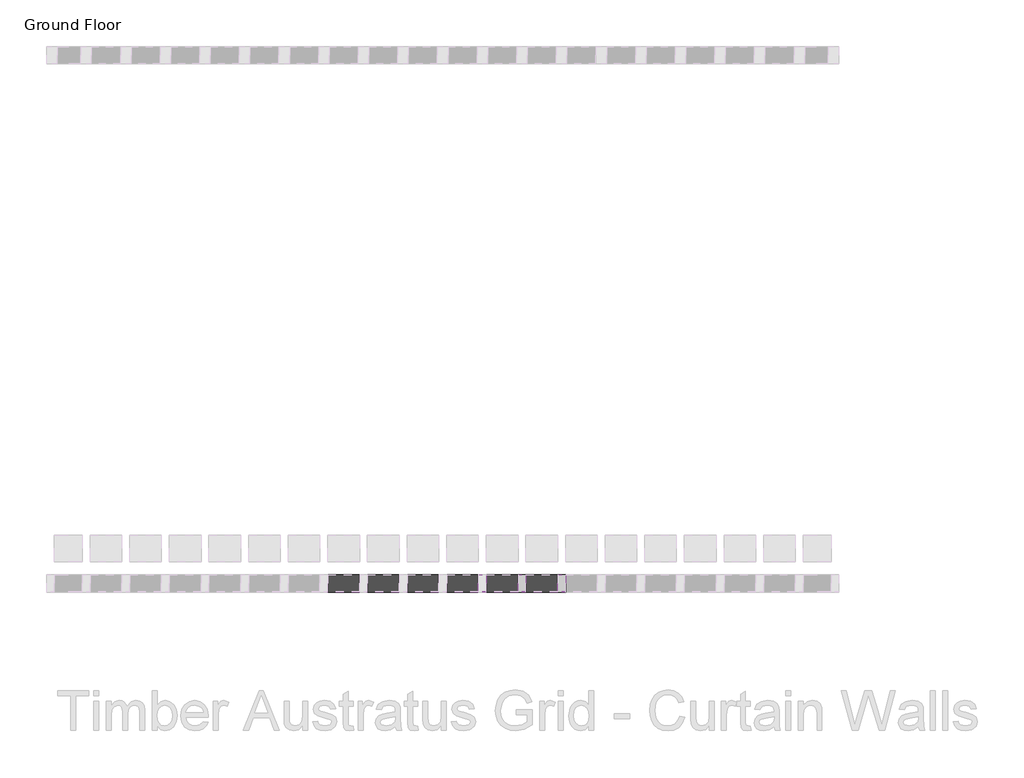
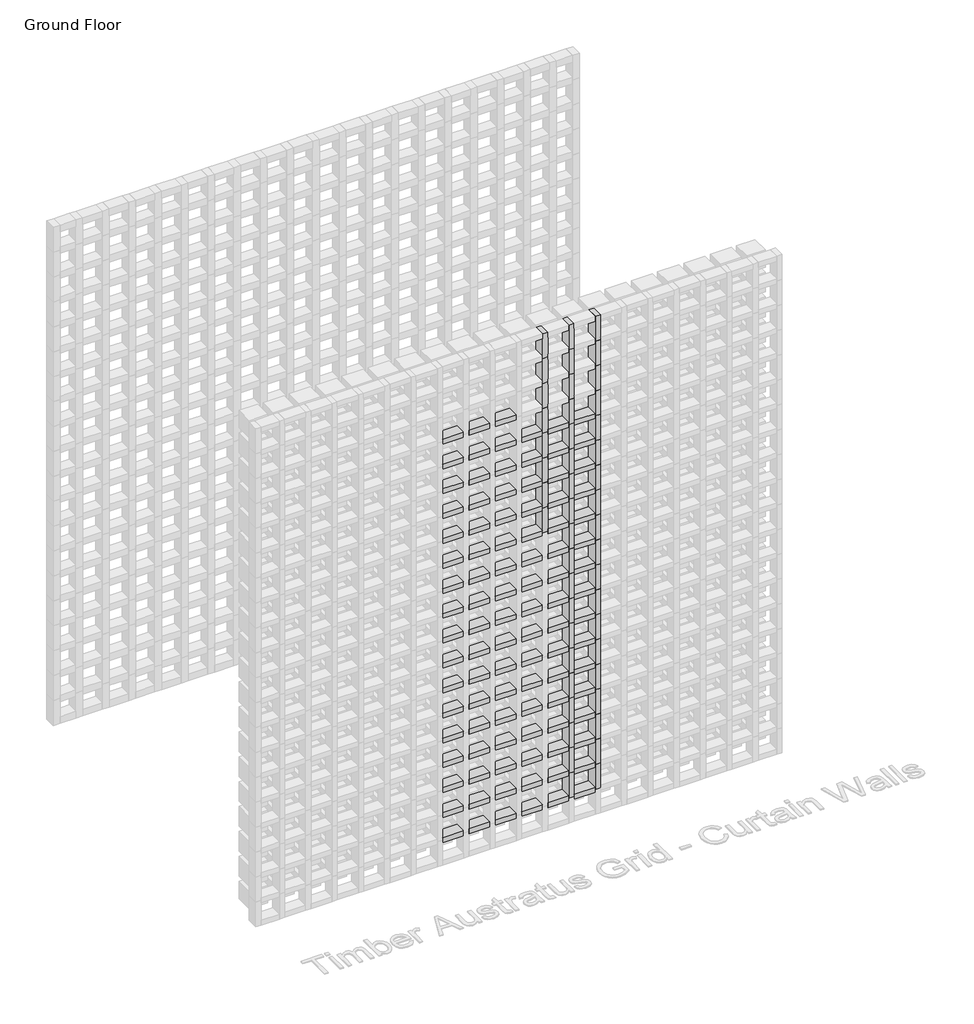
# One storey, part 51 of 350: 145 members.
"""IFC4 building model written with IfcOpenShell, lengths in millimetres."""

from ifc_helpers import new_model, si_unit, origin, place, context, project, spatial, transform, mapped, element, save
from components import rectangular_mullion_1c916715, rectangular_mullion_5b501421

model = new_model("IFC4")

# Units and contexts
model_context = context("Model", 3, world=origin())
ifc_project = project(units=[si_unit("LENGTHUNIT", "METRE", prefix="MILLI")], contexts=[model_context])

# Site, building, storey
site = spatial("IfcSite", under=ifc_project)
building = spatial("IfcBuilding", under=site)
storey = spatial("IfcBuildingStorey", under=building, Name="Ground Floor", Elevation=0.0)

# Members
placement = place(None, origin())
rectangular_mullion_shape = rectangular_mullion_1c916715(model_context)
element("IfcMember", 1, ObjectType="Rectangular Mullion : Batten_Timber_Modinex_Austratus_Grid_Fascia_30x65_AlaskanYellowCedar", at=placement, inside=storey, context=model_context, shape_type="MappedRepresentation", body=[
    mapped(rectangular_mullion_shape, transform((3101.4361642, 38968.2978302, 150.0), x_axis=(0.0, 0.0, 1.0), y_axis=(0.0, -1.0, 0.0), z_axis=(1.0, 0.0, 0.0))),
])
element("IfcMember", 2, ObjectType="Rectangular Mullion : Batten_Timber_Modinex_Austratus_Grid_Fascia_30x65_AlaskanYellowCedar", at=placement, inside=storey, context=model_context, shape_type="MappedRepresentation", body=[
    mapped(rectangular_mullion_shape, transform((3251.4361642, 38968.2978302, 150.0), x_axis=(0.0, 0.0, 1.0), y_axis=(0.0, -1.0, 0.0), z_axis=(1.0, 0.0, 0.0))),
])
element("IfcMember", 3, ObjectType="Rectangular Mullion : Batten_Timber_Modinex_Austratus_Grid_Fascia_30x65_AlaskanYellowCedar", at=placement, inside=storey, context=model_context, shape_type="MappedRepresentation", body=[
    mapped(rectangular_mullion_shape, transform((3401.4361642, 38968.2978302, 150.0), x_axis=(0.0, 0.0, 1.0), y_axis=(0.0, -1.0, 0.0), z_axis=(1.0, 0.0, 0.0))),
])
element("IfcMember", 4, ObjectType="Rectangular Mullion : Batten_Timber_Modinex_Austratus_Grid_Fascia_30x65_AlaskanYellowCedar", at=placement, inside=storey, context=model_context, shape_type="MappedRepresentation", body=[
    mapped(rectangular_mullion_shape, transform((3551.4361642, 38968.2978302, 150.0), x_axis=(0.0, 0.0, 1.0), y_axis=(0.0, -1.0, 0.0), z_axis=(1.0, 0.0, 0.0))),
])
element("IfcMember", 5, ObjectType="Rectangular Mullion : Batten_Timber_Modinex_Austratus_Grid_Fascia_30x65_AlaskanYellowCedar", at=placement, inside=storey, context=model_context, shape_type="MappedRepresentation", body=[
    mapped(rectangular_mullion_shape, transform((3701.4361642, 38968.2978302, 150.0), x_axis=(0.0, 0.0, 1.0), y_axis=(0.0, -1.0, 0.0), z_axis=(1.0, 0.0, 0.0))),
])
element("IfcMember", 6, ObjectType="Rectangular Mullion : Batten_Timber_Modinex_Austratus_Grid_Fascia_30x65_AlaskanYellowCedar", at=placement, inside=storey, context=model_context, shape_type="MappedRepresentation", body=[
    mapped(rectangular_mullion_shape, transform((3851.4361642, 38968.2978302, 150.0), x_axis=(0.0, 0.0, 1.0), y_axis=(0.0, -1.0, 0.0), z_axis=(1.0, 0.0, 0.0))),
])
element("IfcMember", 7, ObjectType="Rectangular Mullion : Batten_Timber_Modinex_Austratus_Grid_Fascia_30x65_AlaskanYellowCedar", at=placement, inside=storey, context=model_context, shape_type="MappedRepresentation", body=[
    mapped(rectangular_mullion_shape, transform((3101.4361642, 38968.2978302, 300.0), x_axis=(0.0, 0.0, 1.0), y_axis=(0.0, -1.0, 0.0), z_axis=(1.0, 0.0, 0.0))),
])
element("IfcMember", 8, ObjectType="Rectangular Mullion : Batten_Timber_Modinex_Austratus_Grid_Fascia_30x65_AlaskanYellowCedar", at=placement, inside=storey, context=model_context, shape_type="MappedRepresentation", body=[
    mapped(rectangular_mullion_shape, transform((3251.4361642, 38968.2978302, 300.0), x_axis=(0.0, 0.0, 1.0), y_axis=(0.0, -1.0, 0.0), z_axis=(1.0, 0.0, 0.0))),
])
element("IfcMember", 9, ObjectType="Rectangular Mullion : Batten_Timber_Modinex_Austratus_Grid_Fascia_30x65_AlaskanYellowCedar", at=placement, inside=storey, context=model_context, shape_type="MappedRepresentation", body=[
    mapped(rectangular_mullion_shape, transform((3401.4361642, 38968.2978302, 300.0), x_axis=(0.0, 0.0, 1.0), y_axis=(0.0, -1.0, 0.0), z_axis=(1.0, 0.0, 0.0))),
])
element("IfcMember", 10, ObjectType="Rectangular Mullion : Batten_Timber_Modinex_Austratus_Grid_Fascia_30x65_AlaskanYellowCedar", at=placement, inside=storey, context=model_context, shape_type="MappedRepresentation", body=[
    mapped(rectangular_mullion_shape, transform((3551.4361642, 38968.2978302, 300.0), x_axis=(0.0, 0.0, 1.0), y_axis=(0.0, -1.0, 0.0), z_axis=(1.0, 0.0, 0.0))),
])
element("IfcMember", 11, ObjectType="Rectangular Mullion : Batten_Timber_Modinex_Austratus_Grid_Fascia_30x65_AlaskanYellowCedar", at=placement, inside=storey, context=model_context, shape_type="MappedRepresentation", body=[
    mapped(rectangular_mullion_shape, transform((3701.4361642, 38968.2978302, 300.0), x_axis=(0.0, 0.0, 1.0), y_axis=(0.0, -1.0, 0.0), z_axis=(1.0, 0.0, 0.0))),
])
element("IfcMember", 12, ObjectType="Rectangular Mullion : Batten_Timber_Modinex_Austratus_Grid_Fascia_30x65_AlaskanYellowCedar", at=placement, inside=storey, context=model_context, shape_type="MappedRepresentation", body=[
    mapped(rectangular_mullion_shape, transform((3851.4361642, 38968.2978302, 300.0), x_axis=(0.0, 0.0, 1.0), y_axis=(0.0, -1.0, 0.0), z_axis=(1.0, 0.0, 0.0))),
])
element("IfcMember", 13, ObjectType="Rectangular Mullion : Batten_Timber_Modinex_Austratus_Grid_Fascia_30x65_AlaskanYellowCedar", at=placement, inside=storey, context=model_context, shape_type="MappedRepresentation", body=[
    mapped(rectangular_mullion_shape, transform((3101.4361642, 38968.2978302, 450.0), x_axis=(0.0, 0.0, 1.0), y_axis=(0.0, -1.0, 0.0), z_axis=(1.0, 0.0, 0.0))),
])
element("IfcMember", 14, ObjectType="Rectangular Mullion : Batten_Timber_Modinex_Austratus_Grid_Fascia_30x65_AlaskanYellowCedar", at=placement, inside=storey, context=model_context, shape_type="MappedRepresentation", body=[
    mapped(rectangular_mullion_shape, transform((3251.4361642, 38968.2978302, 450.0), x_axis=(0.0, 0.0, 1.0), y_axis=(0.0, -1.0, 0.0), z_axis=(1.0, 0.0, 0.0))),
])
element("IfcMember", 15, ObjectType="Rectangular Mullion : Batten_Timber_Modinex_Austratus_Grid_Fascia_30x65_AlaskanYellowCedar", at=placement, inside=storey, context=model_context, shape_type="MappedRepresentation", body=[
    mapped(rectangular_mullion_shape, transform((3401.4361642, 38968.2978302, 450.0), x_axis=(0.0, 0.0, 1.0), y_axis=(0.0, -1.0, 0.0), z_axis=(1.0, 0.0, 0.0))),
])
element("IfcMember", 16, ObjectType="Rectangular Mullion : Batten_Timber_Modinex_Austratus_Grid_Fascia_30x65_AlaskanYellowCedar", at=placement, inside=storey, context=model_context, shape_type="MappedRepresentation", body=[
    mapped(rectangular_mullion_shape, transform((3551.4361642, 38968.2978302, 450.0), x_axis=(0.0, 0.0, 1.0), y_axis=(0.0, -1.0, 0.0), z_axis=(1.0, 0.0, 0.0))),
])
element("IfcMember", 17, ObjectType="Rectangular Mullion : Batten_Timber_Modinex_Austratus_Grid_Fascia_30x65_AlaskanYellowCedar", at=placement, inside=storey, context=model_context, shape_type="MappedRepresentation", body=[
    mapped(rectangular_mullion_shape, transform((3701.4361642, 38968.2978302, 450.0), x_axis=(0.0, 0.0, 1.0), y_axis=(0.0, -1.0, 0.0), z_axis=(1.0, 0.0, 0.0))),
])
element("IfcMember", 18, ObjectType="Rectangular Mullion : Batten_Timber_Modinex_Austratus_Grid_Fascia_30x65_AlaskanYellowCedar", at=placement, inside=storey, context=model_context, shape_type="MappedRepresentation", body=[
    mapped(rectangular_mullion_shape, transform((3851.4361642, 38968.2978302, 450.0), x_axis=(0.0, 0.0, 1.0), y_axis=(0.0, -1.0, 0.0), z_axis=(1.0, 0.0, 0.0))),
])
element("IfcMember", 19, ObjectType="Rectangular Mullion : Batten_Timber_Modinex_Austratus_Grid_Fascia_30x65_AlaskanYellowCedar", at=placement, inside=storey, context=model_context, shape_type="MappedRepresentation", body=[
    mapped(rectangular_mullion_shape, transform((3101.4361642, 38968.2978302, 600.0), x_axis=(0.0, 0.0, 1.0), y_axis=(0.0, -1.0, 0.0), z_axis=(1.0, 0.0, 0.0))),
])
element("IfcMember", 20, ObjectType="Rectangular Mullion : Batten_Timber_Modinex_Austratus_Grid_Fascia_30x65_AlaskanYellowCedar", at=placement, inside=storey, context=model_context, shape_type="MappedRepresentation", body=[
    mapped(rectangular_mullion_shape, transform((3251.4361642, 38968.2978302, 600.0), x_axis=(0.0, 0.0, 1.0), y_axis=(0.0, -1.0, 0.0), z_axis=(1.0, 0.0, 0.0))),
])
element("IfcMember", 21, ObjectType="Rectangular Mullion : Batten_Timber_Modinex_Austratus_Grid_Fascia_30x65_AlaskanYellowCedar", at=placement, inside=storey, context=model_context, shape_type="MappedRepresentation", body=[
    mapped(rectangular_mullion_shape, transform((3401.4361642, 38968.2978302, 600.0), x_axis=(0.0, 0.0, 1.0), y_axis=(0.0, -1.0, 0.0), z_axis=(1.0, 0.0, 0.0))),
])
element("IfcMember", 22, ObjectType="Rectangular Mullion : Batten_Timber_Modinex_Austratus_Grid_Fascia_30x65_AlaskanYellowCedar", at=placement, inside=storey, context=model_context, shape_type="MappedRepresentation", body=[
    mapped(rectangular_mullion_shape, transform((3551.4361642, 38968.2978302, 600.0), x_axis=(0.0, 0.0, 1.0), y_axis=(0.0, -1.0, 0.0), z_axis=(1.0, 0.0, 0.0))),
])
element("IfcMember", 23, ObjectType="Rectangular Mullion : Batten_Timber_Modinex_Austratus_Grid_Fascia_30x65_AlaskanYellowCedar", at=placement, inside=storey, context=model_context, shape_type="MappedRepresentation", body=[
    mapped(rectangular_mullion_shape, transform((3701.4361642, 38968.2978302, 600.0), x_axis=(0.0, 0.0, 1.0), y_axis=(0.0, -1.0, 0.0), z_axis=(1.0, 0.0, 0.0))),
])
element("IfcMember", 24, ObjectType="Rectangular Mullion : Batten_Timber_Modinex_Austratus_Grid_Fascia_30x65_AlaskanYellowCedar", at=placement, inside=storey, context=model_context, shape_type="MappedRepresentation", body=[
    mapped(rectangular_mullion_shape, transform((3851.4361642, 38968.2978302, 600.0), x_axis=(0.0, 0.0, 1.0), y_axis=(0.0, -1.0, 0.0), z_axis=(1.0, 0.0, 0.0))),
])
element("IfcMember", 25, ObjectType="Rectangular Mullion : Batten_Timber_Modinex_Austratus_Grid_Fascia_30x65_AlaskanYellowCedar", at=placement, inside=storey, context=model_context, shape_type="MappedRepresentation", body=[
    mapped(rectangular_mullion_shape, transform((3101.4361642, 38968.2978302, 750.0), x_axis=(0.0, 0.0, 1.0), y_axis=(0.0, -1.0, 0.0), z_axis=(1.0, 0.0, 0.0))),
])
element("IfcMember", 26, ObjectType="Rectangular Mullion : Batten_Timber_Modinex_Austratus_Grid_Fascia_30x65_AlaskanYellowCedar", at=placement, inside=storey, context=model_context, shape_type="MappedRepresentation", body=[
    mapped(rectangular_mullion_shape, transform((3251.4361642, 38968.2978302, 750.0), x_axis=(0.0, 0.0, 1.0), y_axis=(0.0, -1.0, 0.0), z_axis=(1.0, 0.0, 0.0))),
])
element("IfcMember", 27, ObjectType="Rectangular Mullion : Batten_Timber_Modinex_Austratus_Grid_Fascia_30x65_AlaskanYellowCedar", at=placement, inside=storey, context=model_context, shape_type="MappedRepresentation", body=[
    mapped(rectangular_mullion_shape, transform((3401.4361642, 38968.2978302, 750.0), x_axis=(0.0, 0.0, 1.0), y_axis=(0.0, -1.0, 0.0), z_axis=(1.0, 0.0, 0.0))),
])
element("IfcMember", 28, ObjectType="Rectangular Mullion : Batten_Timber_Modinex_Austratus_Grid_Fascia_30x65_AlaskanYellowCedar", at=placement, inside=storey, context=model_context, shape_type="MappedRepresentation", body=[
    mapped(rectangular_mullion_shape, transform((3551.4361642, 38968.2978302, 750.0), x_axis=(0.0, 0.0, 1.0), y_axis=(0.0, -1.0, 0.0), z_axis=(1.0, 0.0, 0.0))),
])
element("IfcMember", 29, ObjectType="Rectangular Mullion : Batten_Timber_Modinex_Austratus_Grid_Fascia_30x65_AlaskanYellowCedar", at=placement, inside=storey, context=model_context, shape_type="MappedRepresentation", body=[
    mapped(rectangular_mullion_shape, transform((3701.4361642, 38968.2978302, 750.0), x_axis=(0.0, 0.0, 1.0), y_axis=(0.0, -1.0, 0.0), z_axis=(1.0, 0.0, 0.0))),
])
element("IfcMember", 30, ObjectType="Rectangular Mullion : Batten_Timber_Modinex_Austratus_Grid_Fascia_30x65_AlaskanYellowCedar", at=placement, inside=storey, context=model_context, shape_type="MappedRepresentation", body=[
    mapped(rectangular_mullion_shape, transform((3851.4361642, 38968.2978302, 750.0), x_axis=(0.0, 0.0, 1.0), y_axis=(0.0, -1.0, 0.0), z_axis=(1.0, 0.0, 0.0))),
])
element("IfcMember", 31, ObjectType="Rectangular Mullion : Batten_Timber_Modinex_Austratus_Grid_Fascia_30x65_AlaskanYellowCedar", at=placement, inside=storey, context=model_context, shape_type="MappedRepresentation", body=[
    mapped(rectangular_mullion_shape, transform((3101.4361642, 38968.2978302, 900.0), x_axis=(0.0, 0.0, 1.0), y_axis=(0.0, -1.0, 0.0), z_axis=(1.0, 0.0, 0.0))),
])
element("IfcMember", 32, ObjectType="Rectangular Mullion : Batten_Timber_Modinex_Austratus_Grid_Fascia_30x65_AlaskanYellowCedar", at=placement, inside=storey, context=model_context, shape_type="MappedRepresentation", body=[
    mapped(rectangular_mullion_shape, transform((3251.4361642, 38968.2978302, 900.0), x_axis=(0.0, 0.0, 1.0), y_axis=(0.0, -1.0, 0.0), z_axis=(1.0, 0.0, 0.0))),
])
element("IfcMember", 33, ObjectType="Rectangular Mullion : Batten_Timber_Modinex_Austratus_Grid_Fascia_30x65_AlaskanYellowCedar", at=placement, inside=storey, context=model_context, shape_type="MappedRepresentation", body=[
    mapped(rectangular_mullion_shape, transform((3401.4361642, 38968.2978302, 900.0), x_axis=(0.0, 0.0, 1.0), y_axis=(0.0, -1.0, 0.0), z_axis=(1.0, 0.0, 0.0))),
])
element("IfcMember", 34, ObjectType="Rectangular Mullion : Batten_Timber_Modinex_Austratus_Grid_Fascia_30x65_AlaskanYellowCedar", at=placement, inside=storey, context=model_context, shape_type="MappedRepresentation", body=[
    mapped(rectangular_mullion_shape, transform((3551.4361642, 38968.2978302, 900.0), x_axis=(0.0, 0.0, 1.0), y_axis=(0.0, -1.0, 0.0), z_axis=(1.0, 0.0, 0.0))),
])
element("IfcMember", 35, ObjectType="Rectangular Mullion : Batten_Timber_Modinex_Austratus_Grid_Fascia_30x65_AlaskanYellowCedar", at=placement, inside=storey, context=model_context, shape_type="MappedRepresentation", body=[
    mapped(rectangular_mullion_shape, transform((3701.4361642, 38968.2978302, 900.0), x_axis=(0.0, 0.0, 1.0), y_axis=(0.0, -1.0, 0.0), z_axis=(1.0, 0.0, 0.0))),
])
element("IfcMember", 36, ObjectType="Rectangular Mullion : Batten_Timber_Modinex_Austratus_Grid_Fascia_30x65_AlaskanYellowCedar", at=placement, inside=storey, context=model_context, shape_type="MappedRepresentation", body=[
    mapped(rectangular_mullion_shape, transform((3851.4361642, 38968.2978302, 900.0), x_axis=(0.0, 0.0, 1.0), y_axis=(0.0, -1.0, 0.0), z_axis=(1.0, 0.0, 0.0))),
])
element("IfcMember", 37, ObjectType="Rectangular Mullion : Batten_Timber_Modinex_Austratus_Grid_Fascia_30x65_AlaskanYellowCedar", at=placement, inside=storey, context=model_context, shape_type="MappedRepresentation", body=[
    mapped(rectangular_mullion_shape, transform((3101.4361642, 38968.2978302, 1050.0), x_axis=(0.0, 0.0, 1.0), y_axis=(0.0, -1.0, 0.0), z_axis=(1.0, 0.0, 0.0))),
])
element("IfcMember", 38, ObjectType="Rectangular Mullion : Batten_Timber_Modinex_Austratus_Grid_Fascia_30x65_AlaskanYellowCedar", at=placement, inside=storey, context=model_context, shape_type="MappedRepresentation", body=[
    mapped(rectangular_mullion_shape, transform((3251.4361642, 38968.2978302, 1050.0), x_axis=(0.0, 0.0, 1.0), y_axis=(0.0, -1.0, 0.0), z_axis=(1.0, 0.0, 0.0))),
])
element("IfcMember", 39, ObjectType="Rectangular Mullion : Batten_Timber_Modinex_Austratus_Grid_Fascia_30x65_AlaskanYellowCedar", at=placement, inside=storey, context=model_context, shape_type="MappedRepresentation", body=[
    mapped(rectangular_mullion_shape, transform((3401.4361642, 38968.2978302, 1050.0), x_axis=(0.0, 0.0, 1.0), y_axis=(0.0, -1.0, 0.0), z_axis=(1.0, 0.0, 0.0))),
])
element("IfcMember", 40, ObjectType="Rectangular Mullion : Batten_Timber_Modinex_Austratus_Grid_Fascia_30x65_AlaskanYellowCedar", at=placement, inside=storey, context=model_context, shape_type="MappedRepresentation", body=[
    mapped(rectangular_mullion_shape, transform((3551.4361642, 38968.2978302, 1050.0), x_axis=(0.0, 0.0, 1.0), y_axis=(0.0, -1.0, 0.0), z_axis=(1.0, 0.0, 0.0))),
])
element("IfcMember", 41, ObjectType="Rectangular Mullion : Batten_Timber_Modinex_Austratus_Grid_Fascia_30x65_AlaskanYellowCedar", at=placement, inside=storey, context=model_context, shape_type="MappedRepresentation", body=[
    mapped(rectangular_mullion_shape, transform((3701.4361642, 38968.2978302, 1050.0), x_axis=(0.0, 0.0, 1.0), y_axis=(0.0, -1.0, 0.0), z_axis=(1.0, 0.0, 0.0))),
])
element("IfcMember", 42, ObjectType="Rectangular Mullion : Batten_Timber_Modinex_Austratus_Grid_Fascia_30x65_AlaskanYellowCedar", at=placement, inside=storey, context=model_context, shape_type="MappedRepresentation", body=[
    mapped(rectangular_mullion_shape, transform((3851.4361642, 38968.2978302, 1050.0), x_axis=(0.0, 0.0, 1.0), y_axis=(0.0, -1.0, 0.0), z_axis=(1.0, 0.0, 0.0))),
])
element("IfcMember", 43, ObjectType="Rectangular Mullion : Batten_Timber_Modinex_Austratus_Grid_Fascia_30x65_AlaskanYellowCedar", at=placement, inside=storey, context=model_context, shape_type="MappedRepresentation", body=[
    mapped(rectangular_mullion_shape, transform((3101.4361642, 38968.2978302, 1200.0), x_axis=(0.0, 0.0, 1.0), y_axis=(0.0, -1.0, 0.0), z_axis=(1.0, 0.0, 0.0))),
])
element("IfcMember", 44, ObjectType="Rectangular Mullion : Batten_Timber_Modinex_Austratus_Grid_Fascia_30x65_AlaskanYellowCedar", at=placement, inside=storey, context=model_context, shape_type="MappedRepresentation", body=[
    mapped(rectangular_mullion_shape, transform((3251.4361642, 38968.2978302, 1200.0), x_axis=(0.0, 0.0, 1.0), y_axis=(0.0, -1.0, 0.0), z_axis=(1.0, 0.0, 0.0))),
])
element("IfcMember", 45, ObjectType="Rectangular Mullion : Batten_Timber_Modinex_Austratus_Grid_Fascia_30x65_AlaskanYellowCedar", at=placement, inside=storey, context=model_context, shape_type="MappedRepresentation", body=[
    mapped(rectangular_mullion_shape, transform((3401.4361642, 38968.2978302, 1200.0), x_axis=(0.0, 0.0, 1.0), y_axis=(0.0, -1.0, 0.0), z_axis=(1.0, 0.0, 0.0))),
])
element("IfcMember", 46, ObjectType="Rectangular Mullion : Batten_Timber_Modinex_Austratus_Grid_Fascia_30x65_AlaskanYellowCedar", at=placement, inside=storey, context=model_context, shape_type="MappedRepresentation", body=[
    mapped(rectangular_mullion_shape, transform((3551.4361642, 38968.2978302, 1200.0), x_axis=(0.0, 0.0, 1.0), y_axis=(0.0, -1.0, 0.0), z_axis=(1.0, 0.0, 0.0))),
])
element("IfcMember", 47, ObjectType="Rectangular Mullion : Batten_Timber_Modinex_Austratus_Grid_Fascia_30x65_AlaskanYellowCedar", at=placement, inside=storey, context=model_context, shape_type="MappedRepresentation", body=[
    mapped(rectangular_mullion_shape, transform((3701.4361642, 38968.2978302, 1200.0), x_axis=(0.0, 0.0, 1.0), y_axis=(0.0, -1.0, 0.0), z_axis=(1.0, 0.0, 0.0))),
])
element("IfcMember", 48, ObjectType="Rectangular Mullion : Batten_Timber_Modinex_Austratus_Grid_Fascia_30x65_AlaskanYellowCedar", at=placement, inside=storey, context=model_context, shape_type="MappedRepresentation", body=[
    mapped(rectangular_mullion_shape, transform((3851.4361642, 38968.2978302, 1200.0), x_axis=(0.0, 0.0, 1.0), y_axis=(0.0, -1.0, 0.0), z_axis=(1.0, 0.0, 0.0))),
])
element("IfcMember", 49, ObjectType="Rectangular Mullion : Batten_Timber_Modinex_Austratus_Grid_Fascia_30x65_AlaskanYellowCedar", at=placement, inside=storey, context=model_context, shape_type="MappedRepresentation", body=[
    mapped(rectangular_mullion_shape, transform((3101.4361642, 38968.2978302, 1350.0), x_axis=(0.0, 0.0, 1.0), y_axis=(0.0, -1.0, 0.0), z_axis=(1.0, 0.0, 0.0))),
])
element("IfcMember", 50, ObjectType="Rectangular Mullion : Batten_Timber_Modinex_Austratus_Grid_Fascia_30x65_AlaskanYellowCedar", at=placement, inside=storey, context=model_context, shape_type="MappedRepresentation", body=[
    mapped(rectangular_mullion_shape, transform((3251.4361642, 38968.2978302, 1350.0), x_axis=(0.0, 0.0, 1.0), y_axis=(0.0, -1.0, 0.0), z_axis=(1.0, 0.0, 0.0))),
])
element("IfcMember", 51, ObjectType="Rectangular Mullion : Batten_Timber_Modinex_Austratus_Grid_Fascia_30x65_AlaskanYellowCedar", at=placement, inside=storey, context=model_context, shape_type="MappedRepresentation", body=[
    mapped(rectangular_mullion_shape, transform((3401.4361642, 38968.2978302, 1350.0), x_axis=(0.0, 0.0, 1.0), y_axis=(0.0, -1.0, 0.0), z_axis=(1.0, 0.0, 0.0))),
])
element("IfcMember", 52, ObjectType="Rectangular Mullion : Batten_Timber_Modinex_Austratus_Grid_Fascia_30x65_AlaskanYellowCedar", at=placement, inside=storey, context=model_context, shape_type="MappedRepresentation", body=[
    mapped(rectangular_mullion_shape, transform((3551.4361642, 38968.2978302, 1350.0), x_axis=(0.0, 0.0, 1.0), y_axis=(0.0, -1.0, 0.0), z_axis=(1.0, 0.0, 0.0))),
])
element("IfcMember", 53, ObjectType="Rectangular Mullion : Batten_Timber_Modinex_Austratus_Grid_Fascia_30x65_AlaskanYellowCedar", at=placement, inside=storey, context=model_context, shape_type="MappedRepresentation", body=[
    mapped(rectangular_mullion_shape, transform((3701.4361642, 38968.2978302, 1350.0), x_axis=(0.0, 0.0, 1.0), y_axis=(0.0, -1.0, 0.0), z_axis=(1.0, 0.0, 0.0))),
])
element("IfcMember", 54, ObjectType="Rectangular Mullion : Batten_Timber_Modinex_Austratus_Grid_Fascia_30x65_AlaskanYellowCedar", at=placement, inside=storey, context=model_context, shape_type="MappedRepresentation", body=[
    mapped(rectangular_mullion_shape, transform((3851.4361642, 38968.2978302, 1350.0), x_axis=(0.0, 0.0, 1.0), y_axis=(0.0, -1.0, 0.0), z_axis=(1.0, 0.0, 0.0))),
])
element("IfcMember", 55, ObjectType="Rectangular Mullion : Batten_Timber_Modinex_Austratus_Grid_Fascia_30x65_AlaskanYellowCedar", at=placement, inside=storey, context=model_context, shape_type="MappedRepresentation", body=[
    mapped(rectangular_mullion_shape, transform((3101.4361642, 38968.2978302, 1500.0), x_axis=(0.0, 0.0, 1.0), y_axis=(0.0, -1.0, 0.0), z_axis=(1.0, 0.0, 0.0))),
])
element("IfcMember", 56, ObjectType="Rectangular Mullion : Batten_Timber_Modinex_Austratus_Grid_Fascia_30x65_AlaskanYellowCedar", at=placement, inside=storey, context=model_context, shape_type="MappedRepresentation", body=[
    mapped(rectangular_mullion_shape, transform((3251.4361642, 38968.2978302, 1500.0), x_axis=(0.0, 0.0, 1.0), y_axis=(0.0, -1.0, 0.0), z_axis=(1.0, 0.0, 0.0))),
])
element("IfcMember", 57, ObjectType="Rectangular Mullion : Batten_Timber_Modinex_Austratus_Grid_Fascia_30x65_AlaskanYellowCedar", at=placement, inside=storey, context=model_context, shape_type="MappedRepresentation", body=[
    mapped(rectangular_mullion_shape, transform((3401.4361642, 38968.2978302, 1500.0), x_axis=(0.0, 0.0, 1.0), y_axis=(0.0, -1.0, 0.0), z_axis=(1.0, 0.0, 0.0))),
])
element("IfcMember", 58, ObjectType="Rectangular Mullion : Batten_Timber_Modinex_Austratus_Grid_Fascia_30x65_AlaskanYellowCedar", at=placement, inside=storey, context=model_context, shape_type="MappedRepresentation", body=[
    mapped(rectangular_mullion_shape, transform((3551.4361642, 38968.2978302, 1500.0), x_axis=(0.0, 0.0, 1.0), y_axis=(0.0, -1.0, 0.0), z_axis=(1.0, 0.0, 0.0))),
])
element("IfcMember", 59, ObjectType="Rectangular Mullion : Batten_Timber_Modinex_Austratus_Grid_Fascia_30x65_AlaskanYellowCedar", at=placement, inside=storey, context=model_context, shape_type="MappedRepresentation", body=[
    mapped(rectangular_mullion_shape, transform((3701.4361642, 38968.2978302, 1500.0), x_axis=(0.0, 0.0, 1.0), y_axis=(0.0, -1.0, 0.0), z_axis=(1.0, 0.0, 0.0))),
])
element("IfcMember", 60, ObjectType="Rectangular Mullion : Batten_Timber_Modinex_Austratus_Grid_Fascia_30x65_AlaskanYellowCedar", at=placement, inside=storey, context=model_context, shape_type="MappedRepresentation", body=[
    mapped(rectangular_mullion_shape, transform((3851.4361642, 38968.2978302, 1500.0), x_axis=(0.0, 0.0, 1.0), y_axis=(0.0, -1.0, 0.0), z_axis=(1.0, 0.0, 0.0))),
])
element("IfcMember", 61, ObjectType="Rectangular Mullion : Batten_Timber_Modinex_Austratus_Grid_Fascia_30x65_AlaskanYellowCedar", at=placement, inside=storey, context=model_context, shape_type="MappedRepresentation", body=[
    mapped(rectangular_mullion_shape, transform((3101.4361642, 38968.2978302, 1650.0), x_axis=(0.0, 0.0, 1.0), y_axis=(0.0, -1.0, 0.0), z_axis=(1.0, 0.0, 0.0))),
])
element("IfcMember", 62, ObjectType="Rectangular Mullion : Batten_Timber_Modinex_Austratus_Grid_Fascia_30x65_AlaskanYellowCedar", at=placement, inside=storey, context=model_context, shape_type="MappedRepresentation", body=[
    mapped(rectangular_mullion_shape, transform((3251.4361642, 38968.2978302, 1650.0), x_axis=(0.0, 0.0, 1.0), y_axis=(0.0, -1.0, 0.0), z_axis=(1.0, 0.0, 0.0))),
])
element("IfcMember", 63, ObjectType="Rectangular Mullion : Batten_Timber_Modinex_Austratus_Grid_Fascia_30x65_AlaskanYellowCedar", at=placement, inside=storey, context=model_context, shape_type="MappedRepresentation", body=[
    mapped(rectangular_mullion_shape, transform((3401.4361642, 38968.2978302, 1650.0), x_axis=(0.0, 0.0, 1.0), y_axis=(0.0, -1.0, 0.0), z_axis=(1.0, 0.0, 0.0))),
])
element("IfcMember", 64, ObjectType="Rectangular Mullion : Batten_Timber_Modinex_Austratus_Grid_Fascia_30x65_AlaskanYellowCedar", at=placement, inside=storey, context=model_context, shape_type="MappedRepresentation", body=[
    mapped(rectangular_mullion_shape, transform((3551.4361642, 38968.2978302, 1650.0), x_axis=(0.0, 0.0, 1.0), y_axis=(0.0, -1.0, 0.0), z_axis=(1.0, 0.0, 0.0))),
])
element("IfcMember", 65, ObjectType="Rectangular Mullion : Batten_Timber_Modinex_Austratus_Grid_Fascia_30x65_AlaskanYellowCedar", at=placement, inside=storey, context=model_context, shape_type="MappedRepresentation", body=[
    mapped(rectangular_mullion_shape, transform((3701.4361642, 38968.2978302, 1650.0), x_axis=(0.0, 0.0, 1.0), y_axis=(0.0, -1.0, 0.0), z_axis=(1.0, 0.0, 0.0))),
])
element("IfcMember", 66, ObjectType="Rectangular Mullion : Batten_Timber_Modinex_Austratus_Grid_Fascia_30x65_AlaskanYellowCedar", at=placement, inside=storey, context=model_context, shape_type="MappedRepresentation", body=[
    mapped(rectangular_mullion_shape, transform((3851.4361642, 38968.2978302, 1650.0), x_axis=(0.0, 0.0, 1.0), y_axis=(0.0, -1.0, 0.0), z_axis=(1.0, 0.0, 0.0))),
])
element("IfcMember", 67, ObjectType="Rectangular Mullion : Batten_Timber_Modinex_Austratus_Grid_Fascia_30x65_AlaskanYellowCedar", at=placement, inside=storey, context=model_context, shape_type="MappedRepresentation", body=[
    mapped(rectangular_mullion_shape, transform((3101.4361642, 38968.2978302, 1800.0), x_axis=(0.0, 0.0, 1.0), y_axis=(0.0, -1.0, 0.0), z_axis=(1.0, 0.0, 0.0))),
])
element("IfcMember", 68, ObjectType="Rectangular Mullion : Batten_Timber_Modinex_Austratus_Grid_Fascia_30x65_AlaskanYellowCedar", at=placement, inside=storey, context=model_context, shape_type="MappedRepresentation", body=[
    mapped(rectangular_mullion_shape, transform((3251.4361642, 38968.2978302, 1800.0), x_axis=(0.0, 0.0, 1.0), y_axis=(0.0, -1.0, 0.0), z_axis=(1.0, 0.0, 0.0))),
])
element("IfcMember", 69, ObjectType="Rectangular Mullion : Batten_Timber_Modinex_Austratus_Grid_Fascia_30x65_AlaskanYellowCedar", at=placement, inside=storey, context=model_context, shape_type="MappedRepresentation", body=[
    mapped(rectangular_mullion_shape, transform((3401.4361642, 38968.2978302, 1800.0), x_axis=(0.0, 0.0, 1.0), y_axis=(0.0, -1.0, 0.0), z_axis=(1.0, 0.0, 0.0))),
])
element("IfcMember", 70, ObjectType="Rectangular Mullion : Batten_Timber_Modinex_Austratus_Grid_Fascia_30x65_AlaskanYellowCedar", at=placement, inside=storey, context=model_context, shape_type="MappedRepresentation", body=[
    mapped(rectangular_mullion_shape, transform((3551.4361642, 38968.2978302, 1800.0), x_axis=(0.0, 0.0, 1.0), y_axis=(0.0, -1.0, 0.0), z_axis=(1.0, 0.0, 0.0))),
])
element("IfcMember", 71, ObjectType="Rectangular Mullion : Batten_Timber_Modinex_Austratus_Grid_Fascia_30x65_AlaskanYellowCedar", at=placement, inside=storey, context=model_context, shape_type="MappedRepresentation", body=[
    mapped(rectangular_mullion_shape, transform((3701.4361642, 38968.2978302, 1800.0), x_axis=(0.0, 0.0, 1.0), y_axis=(0.0, -1.0, 0.0), z_axis=(1.0, 0.0, 0.0))),
])
element("IfcMember", 72, ObjectType="Rectangular Mullion : Batten_Timber_Modinex_Austratus_Grid_Fascia_30x65_AlaskanYellowCedar", at=placement, inside=storey, context=model_context, shape_type="MappedRepresentation", body=[
    mapped(rectangular_mullion_shape, transform((3851.4361642, 38968.2978302, 1800.0), x_axis=(0.0, 0.0, 1.0), y_axis=(0.0, -1.0, 0.0), z_axis=(1.0, 0.0, 0.0))),
])
element("IfcMember", 73, ObjectType="Rectangular Mullion : Batten_Timber_Modinex_Austratus_Grid_Fascia_30x65_AlaskanYellowCedar", at=placement, inside=storey, context=model_context, shape_type="MappedRepresentation", body=[
    mapped(rectangular_mullion_shape, transform((3101.4361642, 38968.2978302, 1950.0), x_axis=(0.0, 0.0, 1.0), y_axis=(0.0, -1.0, 0.0), z_axis=(1.0, 0.0, 0.0))),
])
element("IfcMember", 74, ObjectType="Rectangular Mullion : Batten_Timber_Modinex_Austratus_Grid_Fascia_30x65_AlaskanYellowCedar", at=placement, inside=storey, context=model_context, shape_type="MappedRepresentation", body=[
    mapped(rectangular_mullion_shape, transform((3251.4361642, 38968.2978302, 1950.0), x_axis=(0.0, 0.0, 1.0), y_axis=(0.0, -1.0, 0.0), z_axis=(1.0, 0.0, 0.0))),
])
element("IfcMember", 75, ObjectType="Rectangular Mullion : Batten_Timber_Modinex_Austratus_Grid_Fascia_30x65_AlaskanYellowCedar", at=placement, inside=storey, context=model_context, shape_type="MappedRepresentation", body=[
    mapped(rectangular_mullion_shape, transform((3401.4361642, 38968.2978302, 1950.0), x_axis=(0.0, 0.0, 1.0), y_axis=(0.0, -1.0, 0.0), z_axis=(1.0, 0.0, 0.0))),
])
element("IfcMember", 76, ObjectType="Rectangular Mullion : Batten_Timber_Modinex_Austratus_Grid_Fascia_30x65_AlaskanYellowCedar", at=placement, inside=storey, context=model_context, shape_type="MappedRepresentation", body=[
    mapped(rectangular_mullion_shape, transform((3551.4361642, 38968.2978302, 1950.0), x_axis=(0.0, 0.0, 1.0), y_axis=(0.0, -1.0, 0.0), z_axis=(1.0, 0.0, 0.0))),
])
element("IfcMember", 77, ObjectType="Rectangular Mullion : Batten_Timber_Modinex_Austratus_Grid_Fascia_30x65_AlaskanYellowCedar", at=placement, inside=storey, context=model_context, shape_type="MappedRepresentation", body=[
    mapped(rectangular_mullion_shape, transform((3701.4361642, 38968.2978302, 1950.0), x_axis=(0.0, 0.0, 1.0), y_axis=(0.0, -1.0, 0.0), z_axis=(1.0, 0.0, 0.0))),
])
element("IfcMember", 78, ObjectType="Rectangular Mullion : Batten_Timber_Modinex_Austratus_Grid_Fascia_30x65_AlaskanYellowCedar", at=placement, inside=storey, context=model_context, shape_type="MappedRepresentation", body=[
    mapped(rectangular_mullion_shape, transform((3851.4361642, 38968.2978302, 1950.0), x_axis=(0.0, 0.0, 1.0), y_axis=(0.0, -1.0, 0.0), z_axis=(1.0, 0.0, 0.0))),
])
element("IfcMember", 79, ObjectType="Rectangular Mullion : Batten_Timber_Modinex_Austratus_Grid_Fascia_30x65_AlaskanYellowCedar", at=placement, inside=storey, context=model_context, shape_type="MappedRepresentation", body=[
    mapped(rectangular_mullion_shape, transform((3101.4361642, 38968.2978302, 2100.0), x_axis=(0.0, 0.0, 1.0), y_axis=(0.0, -1.0, 0.0), z_axis=(1.0, 0.0, 0.0))),
])
element("IfcMember", 80, ObjectType="Rectangular Mullion : Batten_Timber_Modinex_Austratus_Grid_Fascia_30x65_AlaskanYellowCedar", at=placement, inside=storey, context=model_context, shape_type="MappedRepresentation", body=[
    mapped(rectangular_mullion_shape, transform((3251.4361642, 38968.2978302, 2100.0), x_axis=(0.0, 0.0, 1.0), y_axis=(0.0, -1.0, 0.0), z_axis=(1.0, 0.0, 0.0))),
])
element("IfcMember", 81, ObjectType="Rectangular Mullion : Batten_Timber_Modinex_Austratus_Grid_Fascia_30x65_AlaskanYellowCedar", at=placement, inside=storey, context=model_context, shape_type="MappedRepresentation", body=[
    mapped(rectangular_mullion_shape, transform((3401.4361642, 38968.2978302, 2100.0), x_axis=(0.0, 0.0, 1.0), y_axis=(0.0, -1.0, 0.0), z_axis=(1.0, 0.0, 0.0))),
])
element("IfcMember", 82, ObjectType="Rectangular Mullion : Batten_Timber_Modinex_Austratus_Grid_Fascia_30x65_AlaskanYellowCedar", at=placement, inside=storey, context=model_context, shape_type="MappedRepresentation", body=[
    mapped(rectangular_mullion_shape, transform((3551.4361642, 38968.2978302, 2100.0), x_axis=(0.0, 0.0, 1.0), y_axis=(0.0, -1.0, 0.0), z_axis=(1.0, 0.0, 0.0))),
])
element("IfcMember", 83, ObjectType="Rectangular Mullion : Batten_Timber_Modinex_Austratus_Grid_Fascia_30x65_AlaskanYellowCedar", at=placement, inside=storey, context=model_context, shape_type="MappedRepresentation", body=[
    mapped(rectangular_mullion_shape, transform((3701.4361642, 38968.2978302, 2100.0), x_axis=(0.0, 0.0, 1.0), y_axis=(0.0, -1.0, 0.0), z_axis=(1.0, 0.0, 0.0))),
])
element("IfcMember", 84, ObjectType="Rectangular Mullion : Batten_Timber_Modinex_Austratus_Grid_Fascia_30x65_AlaskanYellowCedar", at=placement, inside=storey, context=model_context, shape_type="MappedRepresentation", body=[
    mapped(rectangular_mullion_shape, transform((3851.4361642, 38968.2978302, 2100.0), x_axis=(0.0, 0.0, 1.0), y_axis=(0.0, -1.0, 0.0), z_axis=(1.0, 0.0, 0.0))),
])
element("IfcMember", 85, ObjectType="Rectangular Mullion : Batten_Timber_Modinex_Austratus_Grid_Fascia_30x65_AlaskanYellowCedar", at=placement, inside=storey, context=model_context, shape_type="MappedRepresentation", body=[
    mapped(rectangular_mullion_shape, transform((3101.4361642, 38968.2978302, 2250.0), x_axis=(0.0, 0.0, 1.0), y_axis=(0.0, -1.0, 0.0), z_axis=(1.0, 0.0, 0.0))),
])
element("IfcMember", 86, ObjectType="Rectangular Mullion : Batten_Timber_Modinex_Austratus_Grid_Fascia_30x65_AlaskanYellowCedar", at=placement, inside=storey, context=model_context, shape_type="MappedRepresentation", body=[
    mapped(rectangular_mullion_shape, transform((3251.4361642, 38968.2978302, 2250.0), x_axis=(0.0, 0.0, 1.0), y_axis=(0.0, -1.0, 0.0), z_axis=(1.0, 0.0, 0.0))),
])
element("IfcMember", 87, ObjectType="Rectangular Mullion : Batten_Timber_Modinex_Austratus_Grid_Fascia_30x65_AlaskanYellowCedar", at=placement, inside=storey, context=model_context, shape_type="MappedRepresentation", body=[
    mapped(rectangular_mullion_shape, transform((3401.4361642, 38968.2978302, 2250.0), x_axis=(0.0, 0.0, 1.0), y_axis=(0.0, -1.0, 0.0), z_axis=(1.0, 0.0, 0.0))),
])
element("IfcMember", 88, ObjectType="Rectangular Mullion : Batten_Timber_Modinex_Austratus_Grid_Fascia_30x65_AlaskanYellowCedar", at=placement, inside=storey, context=model_context, shape_type="MappedRepresentation", body=[
    mapped(rectangular_mullion_shape, transform((3551.4361642, 38968.2978302, 2250.0), x_axis=(0.0, 0.0, 1.0), y_axis=(0.0, -1.0, 0.0), z_axis=(1.0, 0.0, 0.0))),
])
element("IfcMember", 89, ObjectType="Rectangular Mullion : Batten_Timber_Modinex_Austratus_Grid_Fascia_30x65_AlaskanYellowCedar", at=placement, inside=storey, context=model_context, shape_type="MappedRepresentation", body=[
    mapped(rectangular_mullion_shape, transform((3701.4361642, 38968.2978302, 2250.0), x_axis=(0.0, 0.0, 1.0), y_axis=(0.0, -1.0, 0.0), z_axis=(1.0, 0.0, 0.0))),
])
element("IfcMember", 90, ObjectType="Rectangular Mullion : Batten_Timber_Modinex_Austratus_Grid_Fascia_30x65_AlaskanYellowCedar", at=placement, inside=storey, context=model_context, shape_type="MappedRepresentation", body=[
    mapped(rectangular_mullion_shape, transform((3851.4361642, 38968.2978302, 2250.0), x_axis=(0.0, 0.0, 1.0), y_axis=(0.0, -1.0, 0.0), z_axis=(1.0, 0.0, 0.0))),
])
element("IfcMember", 91, ObjectType="Rectangular Mullion : Batten_Timber_Modinex_Austratus_Grid_Fascia_30x65_AlaskanYellowCedar", at=placement, inside=storey, context=model_context, shape_type="MappedRepresentation", body=[
    mapped(rectangular_mullion_shape, transform((3101.4361642, 38968.2978302, 2400.0), x_axis=(0.0, 0.0, 1.0), y_axis=(0.0, -1.0, 0.0), z_axis=(1.0, 0.0, 0.0))),
])
element("IfcMember", 92, ObjectType="Rectangular Mullion : Batten_Timber_Modinex_Austratus_Grid_Fascia_30x65_AlaskanYellowCedar", at=placement, inside=storey, context=model_context, shape_type="MappedRepresentation", body=[
    mapped(rectangular_mullion_shape, transform((3251.4361642, 38968.2978302, 2400.0), x_axis=(0.0, 0.0, 1.0), y_axis=(0.0, -1.0, 0.0), z_axis=(1.0, 0.0, 0.0))),
])
element("IfcMember", 93, ObjectType="Rectangular Mullion : Batten_Timber_Modinex_Austratus_Grid_Fascia_30x65_AlaskanYellowCedar", at=placement, inside=storey, context=model_context, shape_type="MappedRepresentation", body=[
    mapped(rectangular_mullion_shape, transform((3401.4361642, 38968.2978302, 2400.0), x_axis=(0.0, 0.0, 1.0), y_axis=(0.0, -1.0, 0.0), z_axis=(1.0, 0.0, 0.0))),
])
element("IfcMember", 94, ObjectType="Rectangular Mullion : Batten_Timber_Modinex_Austratus_Grid_Fascia_30x65_AlaskanYellowCedar", at=placement, inside=storey, context=model_context, shape_type="MappedRepresentation", body=[
    mapped(rectangular_mullion_shape, transform((3551.4361642, 38968.2978302, 2400.0), x_axis=(0.0, 0.0, 1.0), y_axis=(0.0, -1.0, 0.0), z_axis=(1.0, 0.0, 0.0))),
])
element("IfcMember", 95, ObjectType="Rectangular Mullion : Batten_Timber_Modinex_Austratus_Grid_Fascia_30x65_AlaskanYellowCedar", at=placement, inside=storey, context=model_context, shape_type="MappedRepresentation", body=[
    mapped(rectangular_mullion_shape, transform((3701.4361642, 38968.2978302, 2400.0), x_axis=(0.0, 0.0, 1.0), y_axis=(0.0, -1.0, 0.0), z_axis=(1.0, 0.0, 0.0))),
])
element("IfcMember", 96, ObjectType="Rectangular Mullion : Batten_Timber_Modinex_Austratus_Grid_Fascia_30x65_AlaskanYellowCedar", at=placement, inside=storey, context=model_context, shape_type="MappedRepresentation", body=[
    mapped(rectangular_mullion_shape, transform((3851.4361642, 38968.2978302, 2400.0), x_axis=(0.0, 0.0, 1.0), y_axis=(0.0, -1.0, 0.0), z_axis=(1.0, 0.0, 0.0))),
])
element("IfcMember", 97, ObjectType="Rectangular Mullion : Batten_Timber_Modinex_Austratus_Grid_Fascia_30x65_AlaskanYellowCedar", at=placement, inside=storey, context=model_context, shape_type="MappedRepresentation", body=[
    mapped(rectangular_mullion_shape, transform((3101.4361642, 38968.2978302, 2550.0), x_axis=(0.0, 0.0, 1.0), y_axis=(0.0, -1.0, 0.0), z_axis=(1.0, 0.0, 0.0))),
])
element("IfcMember", 98, ObjectType="Rectangular Mullion : Batten_Timber_Modinex_Austratus_Grid_Fascia_30x65_AlaskanYellowCedar", at=placement, inside=storey, context=model_context, shape_type="MappedRepresentation", body=[
    mapped(rectangular_mullion_shape, transform((3251.4361642, 38968.2978302, 2550.0), x_axis=(0.0, 0.0, 1.0), y_axis=(0.0, -1.0, 0.0), z_axis=(1.0, 0.0, 0.0))),
])
element("IfcMember", 99, ObjectType="Rectangular Mullion : Batten_Timber_Modinex_Austratus_Grid_Fascia_30x65_AlaskanYellowCedar", at=placement, inside=storey, context=model_context, shape_type="MappedRepresentation", body=[
    mapped(rectangular_mullion_shape, transform((3401.4361642, 38968.2978302, 2550.0), x_axis=(0.0, 0.0, 1.0), y_axis=(0.0, -1.0, 0.0), z_axis=(1.0, 0.0, 0.0))),
])
rectangular_mullion_2_shape = rectangular_mullion_5b501421(model_context)
element("IfcMember", 100, ObjectType="Rectangular Mullion : Batten_Timber_Modinex_Austratus_Grid_Fascia_30x65_AlaskanYellowCedar", at=placement, inside=storey, context=model_context, shape_type="MappedRepresentation", body=[
    mapped(rectangular_mullion_2_shape, transform((3566.4361642, 38968.2978302, 1800.0), x_axis=(1.0, 0.0, 0.0), y_axis=(0.0, -1.0, 0.0), z_axis=(0.0, 0.0, -1.0))),
])
element("IfcMember", 101, ObjectType="Rectangular Mullion : Batten_Timber_Modinex_Austratus_Grid_Fascia_30x65_AlaskanYellowCedar", at=placement, inside=storey, context=model_context, shape_type="MappedRepresentation", body=[
    mapped(rectangular_mullion_2_shape, transform((3566.4361642, 38968.2978302, 1950.0), x_axis=(1.0, 0.0, 0.0), y_axis=(0.0, -1.0, 0.0), z_axis=(0.0, 0.0, -1.0))),
])
element("IfcMember", 102, ObjectType="Rectangular Mullion : Batten_Timber_Modinex_Austratus_Grid_Fascia_30x65_AlaskanYellowCedar", at=placement, inside=storey, context=model_context, shape_type="MappedRepresentation", body=[
    mapped(rectangular_mullion_2_shape, transform((3566.4361642, 38968.2978302, 2100.0), x_axis=(1.0, 0.0, 0.0), y_axis=(0.0, -1.0, 0.0), z_axis=(0.0, 0.0, -1.0))),
])
element("IfcMember", 103, ObjectType="Rectangular Mullion : Batten_Timber_Modinex_Austratus_Grid_Fascia_30x65_AlaskanYellowCedar", at=placement, inside=storey, context=model_context, shape_type="MappedRepresentation", body=[
    mapped(rectangular_mullion_2_shape, transform((3566.4361642, 38968.2978302, 2250.0), x_axis=(1.0, 0.0, 0.0), y_axis=(0.0, -1.0, 0.0), z_axis=(0.0, 0.0, -1.0))),
])
element("IfcMember", 104, ObjectType="Rectangular Mullion : Batten_Timber_Modinex_Austratus_Grid_Fascia_30x65_AlaskanYellowCedar", at=placement, inside=storey, context=model_context, shape_type="MappedRepresentation", body=[
    mapped(rectangular_mullion_2_shape, transform((3566.4361642, 38968.2978302, 2400.0), x_axis=(1.0, 0.0, 0.0), y_axis=(0.0, -1.0, 0.0), z_axis=(0.0, 0.0, -1.0))),
])
element("IfcMember", 105, ObjectType="Rectangular Mullion : Batten_Timber_Modinex_Austratus_Grid_Fascia_30x65_AlaskanYellowCedar", at=placement, inside=storey, context=model_context, shape_type="MappedRepresentation", body=[
    mapped(rectangular_mullion_2_shape, transform((3566.4361642, 38968.2978302, 2550.0), x_axis=(1.0, 0.0, 0.0), y_axis=(0.0, -1.0, 0.0), z_axis=(0.0, 0.0, -1.0))),
])
element("IfcMember", 106, ObjectType="Rectangular Mullion : Batten_Timber_Modinex_Austratus_Grid_Fascia_30x65_AlaskanYellowCedar", at=placement, inside=storey, context=model_context, shape_type="MappedRepresentation", body=[
    mapped(rectangular_mullion_2_shape, transform((3566.4361642, 38968.2978302, 2700.0), x_axis=(1.0, 0.0, 0.0), y_axis=(0.0, -1.0, 0.0), z_axis=(0.0, 0.0, -1.0))),
])
element("IfcMember", 107, ObjectType="Rectangular Mullion : Batten_Timber_Modinex_Austratus_Grid_Fascia_30x65_AlaskanYellowCedar", at=placement, inside=storey, context=model_context, shape_type="MappedRepresentation", body=[
    mapped(rectangular_mullion_2_shape, transform((3716.4361642, 38968.2978302, 150.0), x_axis=(1.0, 0.0, 0.0), y_axis=(0.0, -1.0, 0.0), z_axis=(0.0, 0.0, -1.0))),
])
element("IfcMember", 108, ObjectType="Rectangular Mullion : Batten_Timber_Modinex_Austratus_Grid_Fascia_30x65_AlaskanYellowCedar", at=placement, inside=storey, context=model_context, shape_type="MappedRepresentation", body=[
    mapped(rectangular_mullion_2_shape, transform((3716.4361642, 38968.2978302, 300.0), x_axis=(1.0, 0.0, 0.0), y_axis=(0.0, -1.0, 0.0), z_axis=(0.0, 0.0, -1.0))),
])
element("IfcMember", 109, ObjectType="Rectangular Mullion : Batten_Timber_Modinex_Austratus_Grid_Fascia_30x65_AlaskanYellowCedar", at=placement, inside=storey, context=model_context, shape_type="MappedRepresentation", body=[
    mapped(rectangular_mullion_2_shape, transform((3716.4361642, 38968.2978302, 450.0), x_axis=(1.0, 0.0, 0.0), y_axis=(0.0, -1.0, 0.0), z_axis=(0.0, 0.0, -1.0))),
])
element("IfcMember", 110, ObjectType="Rectangular Mullion : Batten_Timber_Modinex_Austratus_Grid_Fascia_30x65_AlaskanYellowCedar", at=placement, inside=storey, context=model_context, shape_type="MappedRepresentation", body=[
    mapped(rectangular_mullion_2_shape, transform((3716.4361642, 38968.2978302, 600.0), x_axis=(1.0, 0.0, 0.0), y_axis=(0.0, -1.0, 0.0), z_axis=(0.0, 0.0, -1.0))),
])
element("IfcMember", 111, ObjectType="Rectangular Mullion : Batten_Timber_Modinex_Austratus_Grid_Fascia_30x65_AlaskanYellowCedar", at=placement, inside=storey, context=model_context, shape_type="MappedRepresentation", body=[
    mapped(rectangular_mullion_2_shape, transform((3716.4361642, 38968.2978302, 750.0), x_axis=(1.0, 0.0, 0.0), y_axis=(0.0, -1.0, 0.0), z_axis=(0.0, 0.0, -1.0))),
])
element("IfcMember", 112, ObjectType="Rectangular Mullion : Batten_Timber_Modinex_Austratus_Grid_Fascia_30x65_AlaskanYellowCedar", at=placement, inside=storey, context=model_context, shape_type="MappedRepresentation", body=[
    mapped(rectangular_mullion_2_shape, transform((3716.4361642, 38968.2978302, 900.0), x_axis=(1.0, 0.0, 0.0), y_axis=(0.0, -1.0, 0.0), z_axis=(0.0, 0.0, -1.0))),
])
element("IfcMember", 113, ObjectType="Rectangular Mullion : Batten_Timber_Modinex_Austratus_Grid_Fascia_30x65_AlaskanYellowCedar", at=placement, inside=storey, context=model_context, shape_type="MappedRepresentation", body=[
    mapped(rectangular_mullion_2_shape, transform((3716.4361642, 38968.2978302, 1050.0), x_axis=(1.0, 0.0, 0.0), y_axis=(0.0, -1.0, 0.0), z_axis=(0.0, 0.0, -1.0))),
])
element("IfcMember", 114, ObjectType="Rectangular Mullion : Batten_Timber_Modinex_Austratus_Grid_Fascia_30x65_AlaskanYellowCedar", at=placement, inside=storey, context=model_context, shape_type="MappedRepresentation", body=[
    mapped(rectangular_mullion_2_shape, transform((3716.4361642, 38968.2978302, 1200.0), x_axis=(1.0, 0.0, 0.0), y_axis=(0.0, -1.0, 0.0), z_axis=(0.0, 0.0, -1.0))),
])
element("IfcMember", 115, ObjectType="Rectangular Mullion : Batten_Timber_Modinex_Austratus_Grid_Fascia_30x65_AlaskanYellowCedar", at=placement, inside=storey, context=model_context, shape_type="MappedRepresentation", body=[
    mapped(rectangular_mullion_2_shape, transform((3716.4361642, 38968.2978302, 1350.0), x_axis=(1.0, 0.0, 0.0), y_axis=(0.0, -1.0, 0.0), z_axis=(0.0, 0.0, -1.0))),
])
element("IfcMember", 116, ObjectType="Rectangular Mullion : Batten_Timber_Modinex_Austratus_Grid_Fascia_30x65_AlaskanYellowCedar", at=placement, inside=storey, context=model_context, shape_type="MappedRepresentation", body=[
    mapped(rectangular_mullion_2_shape, transform((3716.4361642, 38968.2978302, 1500.0), x_axis=(1.0, 0.0, 0.0), y_axis=(0.0, -1.0, 0.0), z_axis=(0.0, 0.0, -1.0))),
])
element("IfcMember", 117, ObjectType="Rectangular Mullion : Batten_Timber_Modinex_Austratus_Grid_Fascia_30x65_AlaskanYellowCedar", at=placement, inside=storey, context=model_context, shape_type="MappedRepresentation", body=[
    mapped(rectangular_mullion_2_shape, transform((3716.4361642, 38968.2978302, 1650.0), x_axis=(1.0, 0.0, 0.0), y_axis=(0.0, -1.0, 0.0), z_axis=(0.0, 0.0, -1.0))),
])
element("IfcMember", 118, ObjectType="Rectangular Mullion : Batten_Timber_Modinex_Austratus_Grid_Fascia_30x65_AlaskanYellowCedar", at=placement, inside=storey, context=model_context, shape_type="MappedRepresentation", body=[
    mapped(rectangular_mullion_2_shape, transform((3716.4361642, 38968.2978302, 1800.0), x_axis=(1.0, 0.0, 0.0), y_axis=(0.0, -1.0, 0.0), z_axis=(0.0, 0.0, -1.0))),
])
element("IfcMember", 119, ObjectType="Rectangular Mullion : Batten_Timber_Modinex_Austratus_Grid_Fascia_30x65_AlaskanYellowCedar", at=placement, inside=storey, context=model_context, shape_type="MappedRepresentation", body=[
    mapped(rectangular_mullion_2_shape, transform((3716.4361642, 38968.2978302, 1950.0), x_axis=(1.0, 0.0, 0.0), y_axis=(0.0, -1.0, 0.0), z_axis=(0.0, 0.0, -1.0))),
])
element("IfcMember", 120, ObjectType="Rectangular Mullion : Batten_Timber_Modinex_Austratus_Grid_Fascia_30x65_AlaskanYellowCedar", at=placement, inside=storey, context=model_context, shape_type="MappedRepresentation", body=[
    mapped(rectangular_mullion_2_shape, transform((3716.4361642, 38968.2978302, 2100.0), x_axis=(1.0, 0.0, 0.0), y_axis=(0.0, -1.0, 0.0), z_axis=(0.0, 0.0, -1.0))),
])
element("IfcMember", 121, ObjectType="Rectangular Mullion : Batten_Timber_Modinex_Austratus_Grid_Fascia_30x65_AlaskanYellowCedar", at=placement, inside=storey, context=model_context, shape_type="MappedRepresentation", body=[
    mapped(rectangular_mullion_2_shape, transform((3716.4361642, 38968.2978302, 2250.0), x_axis=(1.0, 0.0, 0.0), y_axis=(0.0, -1.0, 0.0), z_axis=(0.0, 0.0, -1.0))),
])
element("IfcMember", 122, ObjectType="Rectangular Mullion : Batten_Timber_Modinex_Austratus_Grid_Fascia_30x65_AlaskanYellowCedar", at=placement, inside=storey, context=model_context, shape_type="MappedRepresentation", body=[
    mapped(rectangular_mullion_2_shape, transform((3716.4361642, 38968.2978302, 2400.0), x_axis=(1.0, 0.0, 0.0), y_axis=(0.0, -1.0, 0.0), z_axis=(0.0, 0.0, -1.0))),
])
element("IfcMember", 123, ObjectType="Rectangular Mullion : Batten_Timber_Modinex_Austratus_Grid_Fascia_30x65_AlaskanYellowCedar", at=placement, inside=storey, context=model_context, shape_type="MappedRepresentation", body=[
    mapped(rectangular_mullion_2_shape, transform((3716.4361642, 38968.2978302, 2550.0), x_axis=(1.0, 0.0, 0.0), y_axis=(0.0, -1.0, 0.0), z_axis=(0.0, 0.0, -1.0))),
])
element("IfcMember", 124, ObjectType="Rectangular Mullion : Batten_Timber_Modinex_Austratus_Grid_Fascia_30x65_AlaskanYellowCedar", at=placement, inside=storey, context=model_context, shape_type="MappedRepresentation", body=[
    mapped(rectangular_mullion_2_shape, transform((3716.4361642, 38968.2978302, 2700.0), x_axis=(1.0, 0.0, 0.0), y_axis=(0.0, -1.0, 0.0), z_axis=(0.0, 0.0, -1.0))),
])
element("IfcMember", 125, ObjectType="Rectangular Mullion : Batten_Timber_Modinex_Austratus_Grid_Fascia_30x65_AlaskanYellowCedar", at=placement, inside=storey, context=model_context, shape_type="MappedRepresentation", body=[
    mapped(rectangular_mullion_2_shape, transform((3866.4361642, 38968.2978302, 150.0), x_axis=(1.0, 0.0, 0.0), y_axis=(0.0, -1.0, 0.0), z_axis=(0.0, 0.0, -1.0))),
])
element("IfcMember", 126, ObjectType="Rectangular Mullion : Batten_Timber_Modinex_Austratus_Grid_Fascia_30x65_AlaskanYellowCedar", at=placement, inside=storey, context=model_context, shape_type="MappedRepresentation", body=[
    mapped(rectangular_mullion_2_shape, transform((3866.4361642, 38968.2978302, 300.0), x_axis=(1.0, 0.0, 0.0), y_axis=(0.0, -1.0, 0.0), z_axis=(0.0, 0.0, -1.0))),
])
element("IfcMember", 127, ObjectType="Rectangular Mullion : Batten_Timber_Modinex_Austratus_Grid_Fascia_30x65_AlaskanYellowCedar", at=placement, inside=storey, context=model_context, shape_type="MappedRepresentation", body=[
    mapped(rectangular_mullion_2_shape, transform((3866.4361642, 38968.2978302, 450.0), x_axis=(1.0, 0.0, 0.0), y_axis=(0.0, -1.0, 0.0), z_axis=(0.0, 0.0, -1.0))),
])
element("IfcMember", 128, ObjectType="Rectangular Mullion : Batten_Timber_Modinex_Austratus_Grid_Fascia_30x65_AlaskanYellowCedar", at=placement, inside=storey, context=model_context, shape_type="MappedRepresentation", body=[
    mapped(rectangular_mullion_2_shape, transform((3866.4361642, 38968.2978302, 600.0), x_axis=(1.0, 0.0, 0.0), y_axis=(0.0, -1.0, 0.0), z_axis=(0.0, 0.0, -1.0))),
])
element("IfcMember", 129, ObjectType="Rectangular Mullion : Batten_Timber_Modinex_Austratus_Grid_Fascia_30x65_AlaskanYellowCedar", at=placement, inside=storey, context=model_context, shape_type="MappedRepresentation", body=[
    mapped(rectangular_mullion_2_shape, transform((3866.4361642, 38968.2978302, 750.0), x_axis=(1.0, 0.0, 0.0), y_axis=(0.0, -1.0, 0.0), z_axis=(0.0, 0.0, -1.0))),
])
element("IfcMember", 130, ObjectType="Rectangular Mullion : Batten_Timber_Modinex_Austratus_Grid_Fascia_30x65_AlaskanYellowCedar", at=placement, inside=storey, context=model_context, shape_type="MappedRepresentation", body=[
    mapped(rectangular_mullion_2_shape, transform((3866.4361642, 38968.2978302, 900.0), x_axis=(1.0, 0.0, 0.0), y_axis=(0.0, -1.0, 0.0), z_axis=(0.0, 0.0, -1.0))),
])
element("IfcMember", 131, ObjectType="Rectangular Mullion : Batten_Timber_Modinex_Austratus_Grid_Fascia_30x65_AlaskanYellowCedar", at=placement, inside=storey, context=model_context, shape_type="MappedRepresentation", body=[
    mapped(rectangular_mullion_2_shape, transform((3866.4361642, 38968.2978302, 1050.0), x_axis=(1.0, 0.0, 0.0), y_axis=(0.0, -1.0, 0.0), z_axis=(0.0, 0.0, -1.0))),
])
element("IfcMember", 132, ObjectType="Rectangular Mullion : Batten_Timber_Modinex_Austratus_Grid_Fascia_30x65_AlaskanYellowCedar", at=placement, inside=storey, context=model_context, shape_type="MappedRepresentation", body=[
    mapped(rectangular_mullion_2_shape, transform((3866.4361642, 38968.2978302, 1200.0), x_axis=(1.0, 0.0, 0.0), y_axis=(0.0, -1.0, 0.0), z_axis=(0.0, 0.0, -1.0))),
])
element("IfcMember", 133, ObjectType="Rectangular Mullion : Batten_Timber_Modinex_Austratus_Grid_Fascia_30x65_AlaskanYellowCedar", at=placement, inside=storey, context=model_context, shape_type="MappedRepresentation", body=[
    mapped(rectangular_mullion_2_shape, transform((3866.4361642, 38968.2978302, 1350.0), x_axis=(1.0, 0.0, 0.0), y_axis=(0.0, -1.0, 0.0), z_axis=(0.0, 0.0, -1.0))),
])
element("IfcMember", 134, ObjectType="Rectangular Mullion : Batten_Timber_Modinex_Austratus_Grid_Fascia_30x65_AlaskanYellowCedar", at=placement, inside=storey, context=model_context, shape_type="MappedRepresentation", body=[
    mapped(rectangular_mullion_2_shape, transform((3866.4361642, 38968.2978302, 1500.0), x_axis=(1.0, 0.0, 0.0), y_axis=(0.0, -1.0, 0.0), z_axis=(0.0, 0.0, -1.0))),
])
element("IfcMember", 135, ObjectType="Rectangular Mullion : Batten_Timber_Modinex_Austratus_Grid_Fascia_30x65_AlaskanYellowCedar", at=placement, inside=storey, context=model_context, shape_type="MappedRepresentation", body=[
    mapped(rectangular_mullion_2_shape, transform((3866.4361642, 38968.2978302, 1650.0), x_axis=(1.0, 0.0, 0.0), y_axis=(0.0, -1.0, 0.0), z_axis=(0.0, 0.0, -1.0))),
])
element("IfcMember", 136, ObjectType="Rectangular Mullion : Batten_Timber_Modinex_Austratus_Grid_Fascia_30x65_AlaskanYellowCedar", at=placement, inside=storey, context=model_context, shape_type="MappedRepresentation", body=[
    mapped(rectangular_mullion_2_shape, transform((3866.4361642, 38968.2978302, 1800.0), x_axis=(1.0, 0.0, 0.0), y_axis=(0.0, -1.0, 0.0), z_axis=(0.0, 0.0, -1.0))),
])
element("IfcMember", 137, ObjectType="Rectangular Mullion : Batten_Timber_Modinex_Austratus_Grid_Fascia_30x65_AlaskanYellowCedar", at=placement, inside=storey, context=model_context, shape_type="MappedRepresentation", body=[
    mapped(rectangular_mullion_2_shape, transform((3866.4361642, 38968.2978302, 1950.0), x_axis=(1.0, 0.0, 0.0), y_axis=(0.0, -1.0, 0.0), z_axis=(0.0, 0.0, -1.0))),
])
element("IfcMember", 138, ObjectType="Rectangular Mullion : Batten_Timber_Modinex_Austratus_Grid_Fascia_30x65_AlaskanYellowCedar", at=placement, inside=storey, context=model_context, shape_type="MappedRepresentation", body=[
    mapped(rectangular_mullion_2_shape, transform((3866.4361642, 38968.2978302, 2100.0), x_axis=(1.0, 0.0, 0.0), y_axis=(0.0, -1.0, 0.0), z_axis=(0.0, 0.0, -1.0))),
])
element("IfcMember", 139, ObjectType="Rectangular Mullion : Batten_Timber_Modinex_Austratus_Grid_Fascia_30x65_AlaskanYellowCedar", at=placement, inside=storey, context=model_context, shape_type="MappedRepresentation", body=[
    mapped(rectangular_mullion_2_shape, transform((3866.4361642, 38968.2978302, 2250.0), x_axis=(1.0, 0.0, 0.0), y_axis=(0.0, -1.0, 0.0), z_axis=(0.0, 0.0, -1.0))),
])
element("IfcMember", 140, ObjectType="Rectangular Mullion : Batten_Timber_Modinex_Austratus_Grid_Fascia_30x65_AlaskanYellowCedar", at=placement, inside=storey, context=model_context, shape_type="MappedRepresentation", body=[
    mapped(rectangular_mullion_2_shape, transform((3866.4361642, 38968.2978302, 2400.0), x_axis=(1.0, 0.0, 0.0), y_axis=(0.0, -1.0, 0.0), z_axis=(0.0, 0.0, -1.0))),
])
element("IfcMember", 141, ObjectType="Rectangular Mullion : Batten_Timber_Modinex_Austratus_Grid_Fascia_30x65_AlaskanYellowCedar", at=placement, inside=storey, context=model_context, shape_type="MappedRepresentation", body=[
    mapped(rectangular_mullion_2_shape, transform((3866.4361642, 38968.2978302, 2550.0), x_axis=(1.0, 0.0, 0.0), y_axis=(0.0, -1.0, 0.0), z_axis=(0.0, 0.0, -1.0))),
])
element("IfcMember", 142, ObjectType="Rectangular Mullion : Batten_Timber_Modinex_Austratus_Grid_Fascia_30x65_AlaskanYellowCedar", at=placement, inside=storey, context=model_context, shape_type="MappedRepresentation", body=[
    mapped(rectangular_mullion_2_shape, transform((3866.4361642, 38968.2978302, 2700.0), x_axis=(1.0, 0.0, 0.0), y_axis=(0.0, -1.0, 0.0), z_axis=(0.0, 0.0, -1.0))),
])
element("IfcMember", 143, ObjectType="Rectangular Mullion : Batten_Timber_Modinex_Austratus_Grid_Fascia_30x65_AlaskanYellowCedar", at=placement, inside=storey, context=model_context, shape_type="MappedRepresentation", body=[
    mapped(rectangular_mullion_2_shape, transform((3566.4361642, 38968.2978302, 2850.0), x_axis=(1.0, 0.0, 0.0), y_axis=(0.0, -1.0, 0.0), z_axis=(0.0, 0.0, -1.0))),
])
element("IfcMember", 144, ObjectType="Rectangular Mullion : Batten_Timber_Modinex_Austratus_Grid_Fascia_30x65_AlaskanYellowCedar", at=placement, inside=storey, context=model_context, shape_type="MappedRepresentation", body=[
    mapped(rectangular_mullion_2_shape, transform((3716.4361642, 38968.2978302, 2850.0), x_axis=(1.0, 0.0, 0.0), y_axis=(0.0, -1.0, 0.0), z_axis=(0.0, 0.0, -1.0))),
])
element("IfcMember", 145, ObjectType="Rectangular Mullion : Batten_Timber_Modinex_Austratus_Grid_Fascia_30x65_AlaskanYellowCedar", at=placement, inside=storey, context=model_context, shape_type="MappedRepresentation", body=[
    mapped(rectangular_mullion_2_shape, transform((3866.4361642, 38968.2978302, 2850.0), x_axis=(1.0, 0.0, 0.0), y_axis=(0.0, -1.0, 0.0), z_axis=(0.0, 0.0, -1.0))),
])

save(model, "model.ifc")
